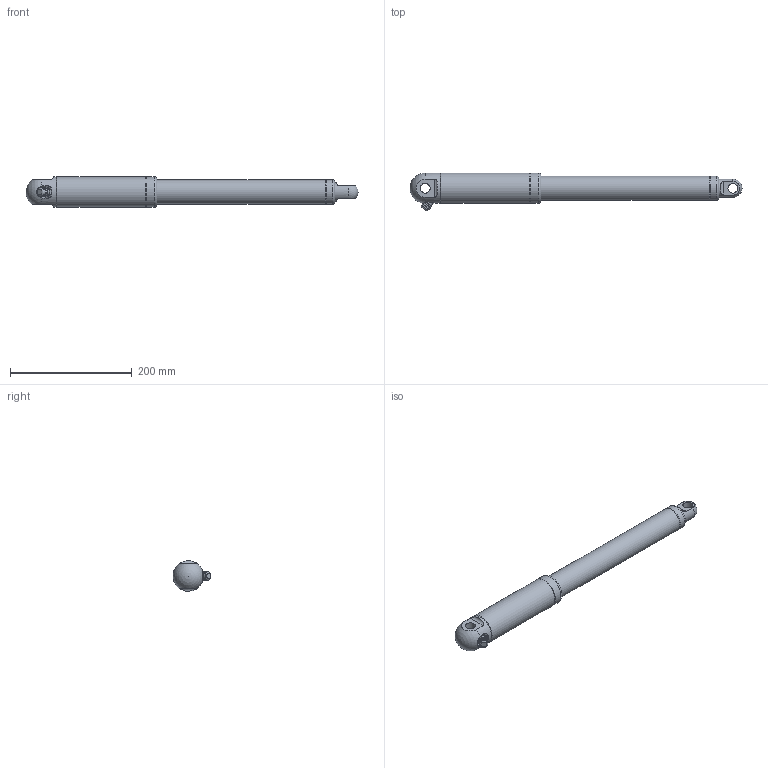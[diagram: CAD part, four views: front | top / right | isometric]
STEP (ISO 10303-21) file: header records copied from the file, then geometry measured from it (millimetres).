
FILE_DESCRIPTION(/* description */ ('STEP AP214'),/* implementation_level */ '2;1');
FILE_NAME(/* name */ '500250-043352+020000_0-0',/* time_stamp */ '2025-08-25T15:46:10+02:00',/* author */ ('License CC BY-ND 4.0'),/* organization */ ('CADENAS'),/* preprocessor_version */ 'ST-DEVELOPER v19.3',/* originating_system */ 'PARTsolutions',/* authorisation */ ' ');
FILE_SCHEMA (('AUTOMOTIVE_DESIGN {1 0 10303 214 3 1 1}'));
Length unit declared in the file: millimetre
Products named in the file (6): 500250-043352+020000_0-0; 500250148+0300---(5_b); 500250030---(5_p); 5024---(bp); 5000---(r); 505220---(bb)
Assembly tree (5 placements, depth 2):
  500250-043352+020000_0-0
    500250148+0300---(5_b)
    500250030---(5_p)
    5024---(bp)
    5000---(r)
    505220---(bb)
Bounding box: 545 x 62.29 x 50 mm (x, y, z)
Volume: 695316 mm3; surface area: 149963.2 mm2
Topology: 5 solids, 5 shells, 73 faces, 163 edges, 107 vertices
Faces by surface type: plane 38, cylinder 22, cone 8, torus 3, sphere 2
Full cylindrical faces by diameter (mm): 12 x1, 13.75 x1, 14 x1, 16 x1, 16.1 x1, 30 x4, 35.6 x1, 36 x1, 40 x2, 40.1 x1, 50 x3
Entity records: 2009 total; most frequent: CARTESIAN_POINT 380, DIRECTION 326, ORIENTED_EDGE 242, AXIS2_PLACEMENT_3D 135, EDGE_CURVE 121, EDGE_LOOP 116, FACE_BOUND 116, VERTEX_POINT 95
